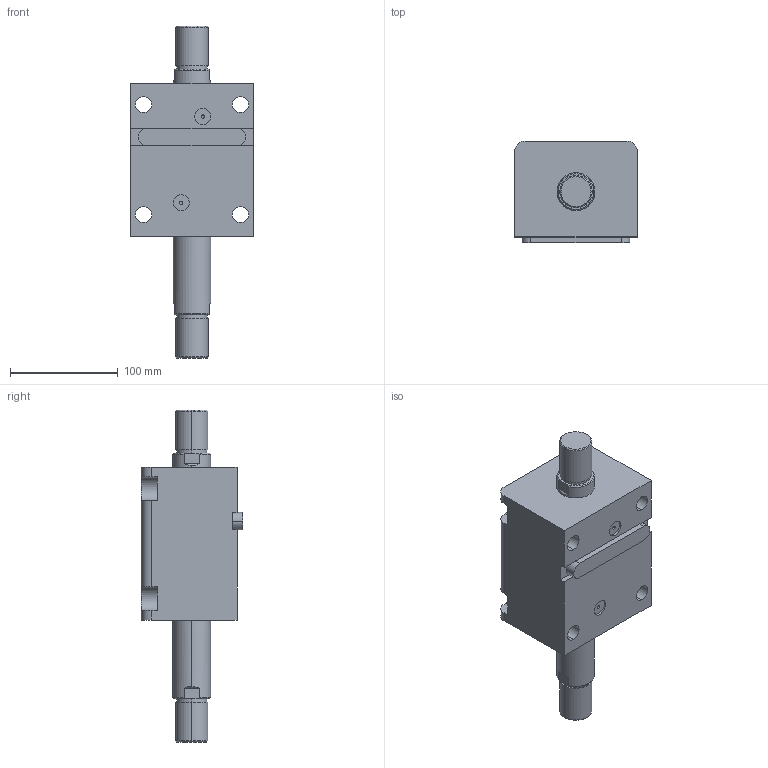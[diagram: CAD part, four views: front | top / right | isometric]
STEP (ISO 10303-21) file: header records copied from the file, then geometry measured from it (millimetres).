
FILE_DESCRIPTION (( 'STEP AP203' ), '1' );
FILE_NAME ('HTB-LWM63-60W.STEP', '2020-12-25T03:49:47', ( '微软用户' ), ( '微软中国' ), 'SwSTEP 2.0', 'SolidWorks 2012', '' );
FILE_SCHEMA (( 'CONFIG_CONTROL_DESIGN' ));
Length unit declared in the file: millimetre
Products named in the file (4): HTB-LWM63-60掛极; HTB-LWM63-60W活塞杆; HTB-LWM63-瑩; HTB-LWM63-60W
Assembly tree (3 placements, depth 2):
  HTB-LWM63-60W
    HTB-LWM63-60掛极
    HTB-LWM63-60W活塞杆
    HTB-LWM63-瑩
Bounding box: 114 x 94.5 x 308 mm (x, y, z)
Volume: 1371987.2 mm3; surface area: 163522.9 mm2
Topology: 3 solids, 3 shells, 113 faces, 273 edges, 178 vertices
Faces by surface type: cylinder 49, plane 48, torus 8, cone 8
Entity records: 3783 total; most frequent: CARTESIAN_POINT 626, DIRECTION 617, ORIENTED_EDGE 546, EDGE_CURVE 273, AXIS2_PLACEMENT_3D 241, VERTEX_POINT 178, VECTOR 135, LINE 135
